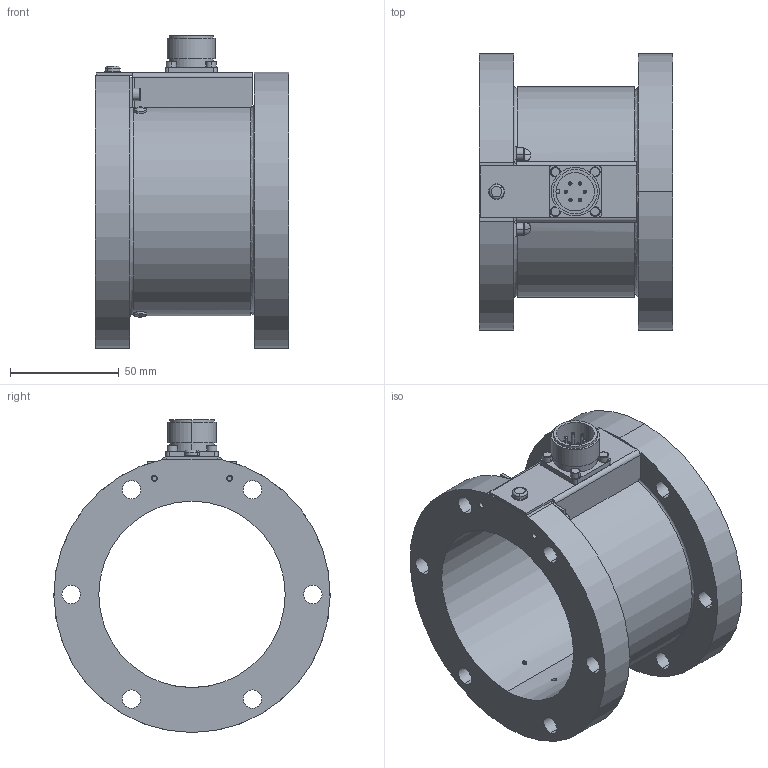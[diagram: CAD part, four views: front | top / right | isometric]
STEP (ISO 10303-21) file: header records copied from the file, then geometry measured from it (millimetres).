
FILE_DESCRIPTION (( 'STEP AP214' ), '1' );
FILE_NAME ('RTM 2060.STEP', '2015-12-21T16:00:40', ( 'Allen' ), ( '' ), 'SwSTEP 2.0', 'SolidWorks 2012', '' );
FILE_SCHEMA (( 'AUTOMOTIVE_DESIGN' ));
Length unit declared in the file: inch
Products named in the file (1): RTM 2060
Bounding box: 88.9 x 127 x 143.91 mm (x, y, z)
Volume: 285612.6 mm3; surface area: 129081.9 mm2
Topology: 21 solids, 21 shells, 586 faces, 1357 edges, 839 vertices
Faces by surface type: cylinder 232, plane 194, cone 100, torus 52, sphere 8
Entity records: 26014 total; most frequent: CARTESIAN_POINT 4541, DIRECTION 2958, ORIENTED_EDGE 2694, EDGE_CURVE 1347, AXIS2_PLACEMENT_3D 1208, VERTEX_POINT 839, EDGE_LOOP 702, CIRCLE 621
